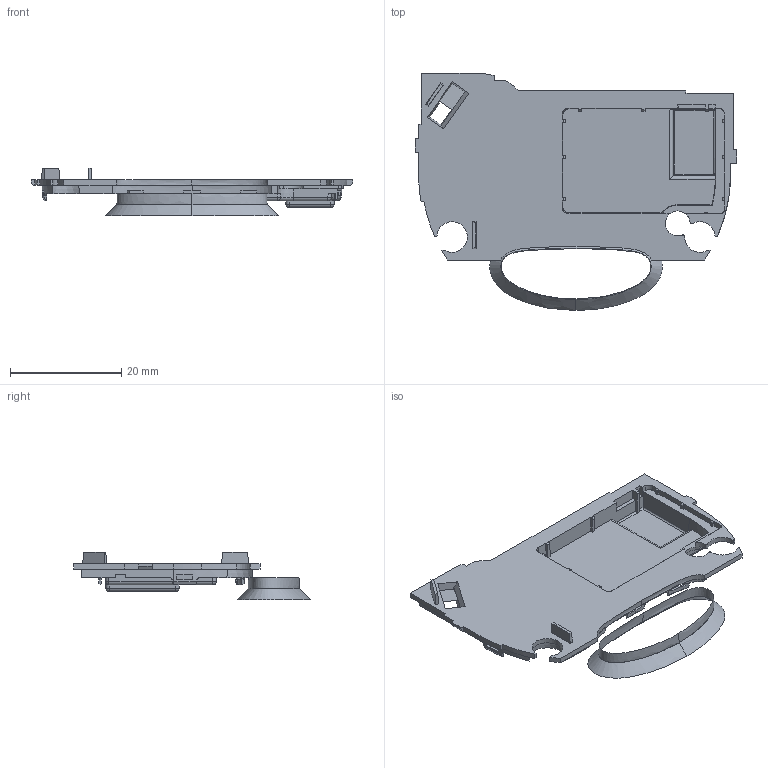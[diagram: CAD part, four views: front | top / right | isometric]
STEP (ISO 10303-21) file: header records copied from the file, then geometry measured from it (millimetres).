
FILE_DESCRIPTION((''),'2;1');
FILE_NAME('GTC02-MSH02_PRT','2008-06-30T',('GRA'),(''),'PRO/ENGINEER BY PARAMETRIC TECHNOLOGY CORPORATION, 2006170','PRO/ENGINEER BY PARAMETRIC TECHNOLOGY CORPORATION, 2006170','');
FILE_SCHEMA(('CONFIG_CONTROL_DESIGN'));
Length unit declared in the file: millimetre
Products named in the file (1): GTC02-MSH02_PRT
Bounding box: 57.88 x 42.66 x 8.6 mm (x, y, z)
Volume: 1666.8 mm3; surface area: 4935.9 mm2
Topology: 1 solids, 4 shells, 367 faces, 1069 edges, 700 vertices
Faces by surface type: plane 248, cylinder 69, bspline 24, cone 15, sphere 8, torus 3
Entity records: 14155 total; most frequent: CARTESIAN_POINT 4746, ORIENTED_EDGE 2126, DIRECTION 1693, EDGE_CURVE 1069, VECTOR 719, LINE 719, VERTEX_POINT 700, AXIS2_PLACEMENT_3D 487
